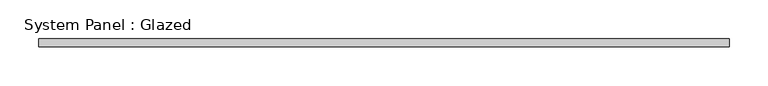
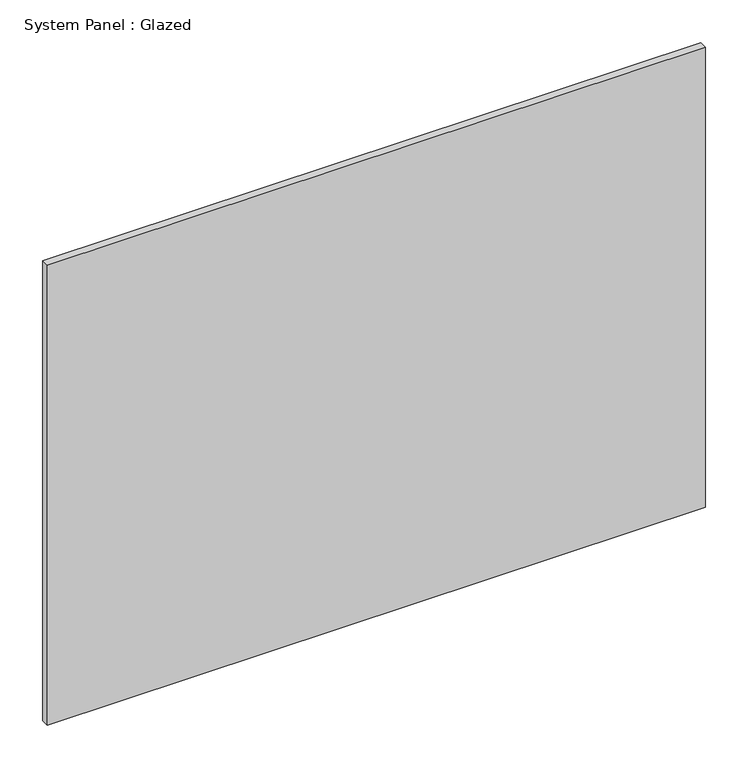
"""IFC4 building model written with IfcOpenShell, lengths in millimetres: plate geometry, System Panel : Glazed."""

from ifc_helpers import new_model, si_unit, origin, origin_with_axes, place, context, project, spatial, polyline, outline, extrude, source, transform, mapped, element, save


def system_panel_glazed_aa347208(model_context):
    return source(origin(), model_context, "Body", "SweptSolid", [
        extrude(outline(polyline([(443.3635417, -5.0), (-443.3635417, -5.0), (-443.3635417, 5.0), (443.3635417, 5.0), (443.3635417, -5.0)])), origin_with_axes(), (0.0, 0.0, 1.0), 655.0),
    ])


if __name__ == "__main__":
    model = new_model("IFC4")
    model_context = context("Model", 3, world=origin())
    ifc_project = project(units=[si_unit("LENGTHUNIT", "METRE", prefix="MILLI")], contexts=[model_context])
    site = spatial("IfcSite", under=ifc_project)
    building = spatial("IfcBuilding", under=site)
    placement = place(None, origin())
    system_panel_glazed_shape = system_panel_glazed_aa347208(model_context)
    element("IfcPlate", 1, ObjectType="System Panel : Glazed", at=placement, inside=building, context=model_context, shape_type="MappedRepresentation", body=[
        mapped(system_panel_glazed_shape, transform((0.0, 0.0, 0.0), x_axis=(1.0, 0.0, 0.0), y_axis=(0.0, 1.0, 0.0), z_axis=(0.0, 0.0, 1.0))),
    ])
    save(model, "model.ifc")
